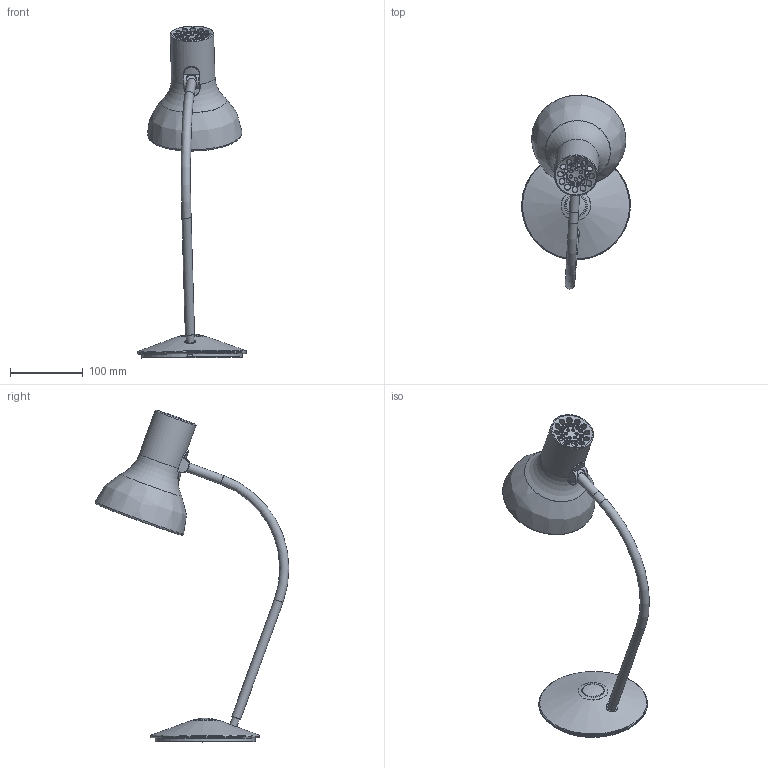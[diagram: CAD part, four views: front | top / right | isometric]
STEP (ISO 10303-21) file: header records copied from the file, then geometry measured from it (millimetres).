
FILE_DESCRIPTION(/* description */ (''),/* implementation_level */ '2;1');
FILE_NAME(/* name */ 'C:/Users/tfalope/Desktop/Type_75_Mini_Table_Lamp_STEP_01.step',/* time_stamp */ '2021-10-04T16:43:02+01:00',/* author */ (''),/* organization */ (''),/* preprocessor_version */ 'ST-DEVELOPER v18.1',/* originating_system */ 'Autodesk Translation Framework v10.10.0.1391',/* authorisation */ '');
FILE_SCHEMA (('AUTOMOTIVE_DESIGN { 1 0 10303 214 3 1 1 }'));
Length unit declared in the file: millimetre
Products named in the file (7): Type 75 Mini Table; 104559; 104566; 104574; 104578; 104577; 104575
Assembly tree (6 placements, depth 3):
  Type 75 Mini Table
    104559
    104566
    104574
    104578
      104577
      104575
Bounding box: 149.7 x 267.29 x 457.69 mm (x, y, z)
Volume: 193751.3 mm3; surface area: 255270.7 mm2
Topology: 12 solids, 13 shells, 461 faces, 1251 edges, 818 vertices
Faces by surface type: plane 193, cylinder 141, bspline 93, torus 18, cone 9, sphere 7
Full cylindrical faces by diameter (mm): 3 x4, 3.3 x2, 4 x2, 4.2 x4, 4.5 x6, 5 x1, 5.5 x12, 6 x3, 6.5 x1, 7 x1, 7.4 x1, 8 x13, 9.8 x1, 10 x3, 10.3 x1, 10.7 x2, 12.7 x2, 17 x1, 23.9 x1, 26.5 x1, 26.8 x1, 29.4 x1, 30 x1, 31.6 x1, 32.4 x1, 51 x1, 58 x1, 60 x1, 125 x1, 138.5 x2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
Entity records: 30120 total; most frequent: CARTESIAN_POINT 18827, ORIENTED_EDGE 2484, DIRECTION 1999, EDGE_CURVE 1243, VERTEX_POINT 818, AXIS2_PLACEMENT_3D 733, EDGE_LOOP 584, LINE 533
